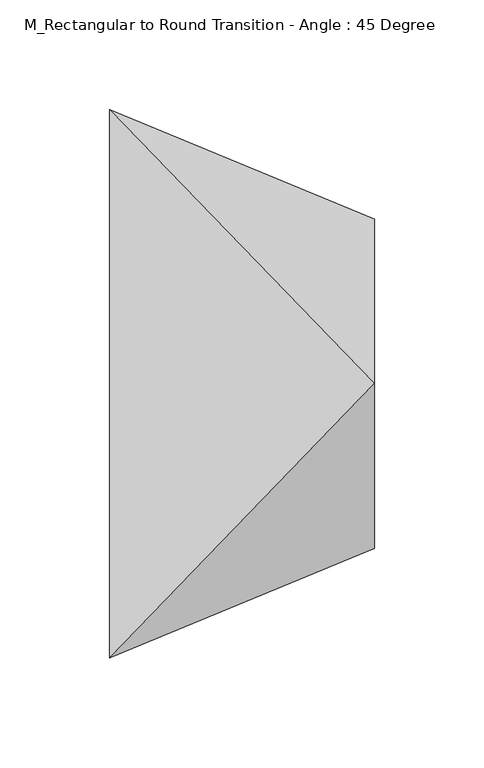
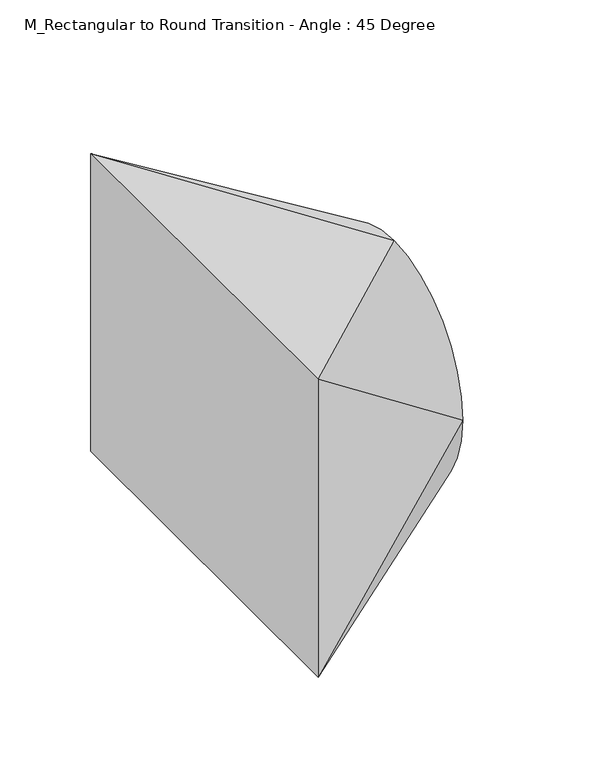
"""IFC4 building model written with IfcOpenShell, lengths in millimetres: duct fitting geometry, M_Rectangular to Round Transition - Angle : 45 Degree."""

from ifc_helpers import new_model, si_unit, frame, origin, place, context, project, spatial, circle_curve, source, transform, mapped, element, save
from ifc_brep_helpers import plane_surface, spline_surface, advanced_brep


def m_rectangular_to_round_transition_angle_45_degree_c3b12eae(model_context):
    return source(origin(), model_context, "Body", "AdvancedBrep", [
        advanced_brep(
        [(0.0, -125.0, -100.0), (0.0, -125.0, 100.0), (0.0, 125.0, 100.0), (0.0, 125.0, -100.0), (120.7106781, -75.0, 0.0), (120.7106781, 0.0, -75.0), (120.7106781, 75.0, 0.0), (120.7106781, 0.0, 75.0)],
        [
            (0, 1),
            (1, 2),
            (2, 3),
            (3, 0),
            (4, 5, circle_curve(frame((120.7106781, 0.0, 0.0), z_axis=(1.0, 0.0, 0.0), x_axis=(0.0, -1.0, 0.0)), 75.0)),
            (5, 6, circle_curve(frame((120.7106781, 0.0, 0.0), z_axis=(1.0, 0.0, 0.0), x_axis=(0.0, -1.0, 0.0)), 75.0)),
            (6, 7, circle_curve(frame((120.7106781, 0.0, 0.0), z_axis=(1.0, 0.0, 0.0), x_axis=(0.0, -1.0, 0.0)), 75.0)),
            (7, 4, circle_curve(frame((120.7106781, 0.0, 0.0), z_axis=(1.0, 0.0, 0.0), x_axis=(0.0, -1.0, 0.0)), 75.0)),
            (0, 4),
            (4, 1),
            (7, 1),
            (7, 2),
            (6, 2),
            (6, 3),
            (5, 3),
            (5, 0),
        ],
        [
            plane_surface(frame((0.0, 0.0, 0.0), z_axis=(-1.0, 0.0, 0.0), x_axis=(0.0, 1.0, 0.0))),
            plane_surface(frame((120.7106781, 0.0, 0.0), z_axis=(1.0, 0.0, 0.0), x_axis=(0.0, 1.0, 0.0))),
            plane_surface(frame((120.7106781, -75.0, 0.0), z_axis=(0.38268343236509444, -0.9238795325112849, 0.0), x_axis=(0.0, 0.0, 1.0))),
            spline_surface(2, 1, [[(120.7106781, -75.0, 0.0), (0.0, -125.0, 100.0)], [(120.7106781, -75.0, 75.0), (0.0, -125.0, 100.0)], [(120.7106781, 0.0, 75.0), (0.0, -125.0, 100.0)]], [3, 3], [2, 2], [0.0, 1.0], [0.0, 1.0], weights=[[1.0, 1.0], [0.7071067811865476, 0.7071067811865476], [1.0, 1.0]]),
            plane_surface(frame((120.7106781, 0.0, 75.0), z_axis=(0.20280301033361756, 0.0, 0.9792195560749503), x_axis=(0.0, 1.0, 0.0))),
            spline_surface(2, 1, [[(120.7106781, 0.0, 75.0), (0.0, 125.0, 100.0)], [(120.7106781, 75.0, 75.0), (0.0, 125.0, 100.0)], [(120.7106781, 75.0, 0.0), (0.0, 125.0, 100.0)]], [3, 3], [2, 2], [0.0, 1.0], [0.0, 1.0], weights=[[1.0, 1.0], [0.7071067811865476, 0.7071067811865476], [1.0, 1.0]]),
            plane_surface(frame((120.7106781, 75.0, 0.0), z_axis=(0.3826834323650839, 0.9238795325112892, 0.0), x_axis=(0.0, 0.0, -1.0))),
            spline_surface(2, 1, [[(120.7106781, 75.0, 0.0), (0.0, 125.0, -100.0)], [(120.7106781, 75.0, -75.0), (0.0, 125.0, -100.0)], [(120.7106781, 0.0, -75.0), (0.0, 125.0, -100.0)]], [3, 3], [2, 2], [0.0, 1.0], [0.0, 1.0], weights=[[1.0, 1.0], [0.7071067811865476, 0.7071067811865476], [1.0, 1.0]]),
            plane_surface(frame((120.7106781, 0.0, -75.0), z_axis=(0.20280301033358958, 0.0, -0.979219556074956), x_axis=(0.0, -1.0, 0.0))),
            spline_surface(2, 1, [[(120.7106781, 0.0, -75.0), (0.0, -125.0, -100.0)], [(120.7106781, -75.0, -75.0), (0.0, -125.0, -100.0)], [(120.7106781, -75.0, 0.0), (0.0, -125.0, -100.0)]], [3, 3], [2, 2], [0.0, 1.0], [0.0, 1.0], weights=[[1.0, 1.0], [0.7071067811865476, 0.7071067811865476], [1.0, 1.0]]),
        ],
        [
            (0, [[1, 2, 3, 4]]),
            (1, [[5, 6, 7, 8]]),
            (2, [[-1, 9, 10]]),
            (3, [[-8, 11, -10]]),
            (4, [[-2, -11, 12]]),
            (5, [[-7, 13, -12]]),
            (6, [[-3, -13, 14]]),
            (7, [[-6, 15, -14]]),
            (8, [[-4, -15, 16]]),
            (9, [[-5, -9, -16]]),
        ],
    ),
        advanced_brep(
        [(0.0, -125.0, -100.0), (0.0, -125.0, 100.0), (0.0, 125.0, 100.0), (0.0, 125.0, -100.0), (120.7106781, -75.0, 0.0), (120.7106781, 0.0, -75.0), (120.7106781, 75.0, 0.0), (120.7106781, 0.0, 75.0)],
        [
            (0, 1),
            (1, 2),
            (2, 3),
            (3, 0),
            (4, 5, circle_curve(frame((120.7106781, 0.0, 0.0), z_axis=(1.0, 0.0, 0.0), x_axis=(0.0, -1.0, 0.0)), 75.0)),
            (5, 6, circle_curve(frame((120.7106781, 0.0, 0.0), z_axis=(1.0, 0.0, 0.0), x_axis=(0.0, -1.0, 0.0)), 75.0)),
            (6, 7, circle_curve(frame((120.7106781, 0.0, 0.0), z_axis=(1.0, 0.0, 0.0), x_axis=(0.0, -1.0, 0.0)), 75.0)),
            (7, 4, circle_curve(frame((120.7106781, 0.0, 0.0), z_axis=(1.0, 0.0, 0.0), x_axis=(0.0, -1.0, 0.0)), 75.0)),
            (0, 4),
            (4, 1),
            (7, 1),
            (7, 2),
            (6, 2),
            (6, 3),
            (5, 3),
            (5, 0),
        ],
        [
            plane_surface(frame((0.0, 0.0, 0.0), z_axis=(-1.0, 0.0, 0.0), x_axis=(0.0, 1.0, 0.0))),
            plane_surface(frame((120.7106781, 0.0, 0.0), z_axis=(1.0, 0.0, 0.0), x_axis=(0.0, 1.0, 0.0))),
            plane_surface(frame((120.7106781, -75.0, 0.0), z_axis=(0.3826834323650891, -0.9238795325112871, 0.0), x_axis=(0.0, 0.0, 1.0))),
            spline_surface(2, 1, [[(120.7106781, -75.0, 0.0), (0.0, -125.0, 100.0)], [(120.7106781, -75.0, 75.0), (0.0, -125.0, 100.0)], [(120.7106781, 0.0, 75.0), (0.0, -125.0, 100.0)]], [3, 3], [2, 2], [0.0, 1.0], [0.0, 1.0], weights=[[1.0, 1.0], [0.7071067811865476, 0.7071067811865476], [1.0, 1.0]]),
            plane_surface(frame((120.7106781, 0.0, 75.0), z_axis=(0.20280301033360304, 0.0, 0.9792195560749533), x_axis=(0.0, 1.0, 0.0))),
            spline_surface(2, 1, [[(120.7106781, 0.0, 75.0), (0.0, 125.0, 100.0)], [(120.7106781, 75.0, 75.0), (0.0, 125.0, 100.0)], [(120.7106781, 75.0, 0.0), (0.0, 125.0, 100.0)]], [3, 3], [2, 2], [0.0, 1.0], [0.0, 1.0], weights=[[1.0, 1.0], [0.7071067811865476, 0.7071067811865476], [1.0, 1.0]]),
            plane_surface(frame((120.7106781, 75.0, 0.0), z_axis=(0.3826834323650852, 0.9238795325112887, 0.0), x_axis=(0.0, 0.0, -1.0))),
            spline_surface(2, 1, [[(120.7106781, 75.0, 0.0), (0.0, 125.0, -100.0)], [(120.7106781, 75.0, -75.0), (0.0, 125.0, -100.0)], [(120.7106781, 0.0, -75.0), (0.0, 125.0, -100.0)]], [3, 3], [2, 2], [0.0, 1.0], [0.0, 1.0], weights=[[1.0, 1.0], [0.7071067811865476, 0.7071067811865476], [1.0, 1.0]]),
            plane_surface(frame((120.7106781, 0.0, -75.0), z_axis=(0.20280301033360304, 0.0, -0.9792195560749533), x_axis=(0.0, -1.0, 0.0))),
            spline_surface(2, 1, [[(120.7106781, 0.0, -75.0), (0.0, -125.0, -100.0)], [(120.7106781, -75.0, -75.0), (0.0, -125.0, -100.0)], [(120.7106781, -75.0, 0.0), (0.0, -125.0, -100.0)]], [3, 3], [2, 2], [0.0, 1.0], [0.0, 1.0], weights=[[1.0, 1.0], [0.7071067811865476, 0.7071067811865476], [1.0, 1.0]]),
        ],
        [
            (0, [[1, 2, 3, 4]]),
            (1, [[5, 6, 7, 8]]),
            (2, [[-1, 9, 10]]),
            (3, [[-8, 11, -10]]),
            (4, [[-2, -11, 12]]),
            (5, [[-7, 13, -12]]),
            (6, [[-3, -13, 14]]),
            (7, [[-6, 15, -14]]),
            (8, [[-4, -15, 16]]),
            (9, [[-5, -9, -16]]),
        ],
    ),
        advanced_brep(
        [(120.7106781, 0.0, 75.0), (120.7106781, -75.0, 0.0), (120.7106781, 0.0, -75.0), (120.7106781, 75.0, 0.0), (0.0, -125.0, 100.0), (0.0, 125.0, 100.0), (0.0, 125.0, -100.0), (0.0, -125.0, -100.0)],
        [
            (0, 1, circle_curve(frame((120.7106781, 0.0, 0.0), z_axis=(1.0, 0.0, 0.0), x_axis=(0.0, 1.0, 0.0)), 75.0)),
            (1, 2, circle_curve(frame((120.7106781, 0.0, 0.0), z_axis=(1.0, 0.0, 0.0), x_axis=(0.0, 1.0, 0.0)), 75.0)),
            (2, 3, circle_curve(frame((120.7106781, 0.0, 0.0), z_axis=(1.0, 0.0, 0.0), x_axis=(0.0, 1.0, 0.0)), 75.0)),
            (3, 0, circle_curve(frame((120.7106781, 0.0, 0.0), z_axis=(1.0, 0.0, 0.0), x_axis=(0.0, 1.0, 0.0)), 75.0)),
            (4, 5),
            (5, 6),
            (6, 7),
            (7, 4),
            (0, 4),
            (4, 1),
            (7, 1),
            (7, 2),
            (6, 2),
            (6, 3),
            (5, 3),
            (5, 0),
        ],
        [
            plane_surface(frame((120.7106781, 0.0, 0.0), z_axis=(1.0, 0.0, 0.0), x_axis=(0.0, 0.0, -1.0))),
            plane_surface(frame((0.0, 0.0, 0.0), z_axis=(-1.0, 0.0, 0.0), x_axis=(0.0, 0.0, -1.0))),
            spline_surface(2, 1, [[(0.0, -125.0, 100.0), (120.7106781, 0.0, 75.0)], [(0.0, -125.0, 100.0), (120.7106781, -75.0, 75.0)], [(0.0, -125.0, 100.0), (120.7106781, -75.0, 0.0)]], [3, 3], [2, 2], [0.0, 1.0], [0.0, 1.0], weights=[[1.0, 1.0], [0.7071067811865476, 0.7071067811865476], [1.0, 1.0]]),
            plane_surface(frame((0.0, -125.0, 0.0), z_axis=(0.3826834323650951, -0.9238795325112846, 0.0), x_axis=(0.0, 0.0, -1.0))),
            spline_surface(2, 1, [[(0.0, -125.0, -100.0), (120.7106781, -75.0, 0.0)], [(0.0, -125.0, -100.0), (120.7106781, -75.0, -75.0)], [(0.0, -125.0, -100.0), (120.7106781, 0.0, -75.0)]], [3, 3], [2, 2], [0.0, 1.0], [0.0, 1.0], weights=[[1.0, 1.0], [0.7071067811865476, 0.7071067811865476], [1.0, 1.0]]),
            plane_surface(frame((0.0, 0.0, -100.0), z_axis=(0.2028030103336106, 0.0, -0.9792195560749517), x_axis=(0.0, 1.0, 0.0))),
            spline_surface(2, 1, [[(0.0, 125.0, -100.0), (120.7106781, 0.0, -75.0)], [(0.0, 125.0, -100.0), (120.7106781, 75.0, -75.0)], [(0.0, 125.0, -100.0), (120.7106781, 75.0, 0.0)]], [3, 3], [2, 2], [0.0, 1.0], [0.0, 1.0], weights=[[1.0, 1.0], [0.7071067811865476, 0.7071067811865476], [1.0, 1.0]]),
            plane_surface(frame((0.0, 125.0, 0.0), z_axis=(0.3826834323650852, 0.9238795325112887, 0.0), x_axis=(0.0, 0.0, 1.0))),
            spline_surface(2, 1, [[(0.0, 125.0, 100.0), (120.7106781, 75.0, 0.0)], [(0.0, 125.0, 100.0), (120.7106781, 75.0, 75.0)], [(0.0, 125.0, 100.0), (120.7106781, 0.0, 75.0)]], [3, 3], [2, 2], [0.0, 1.0], [0.0, 1.0], weights=[[1.0, 1.0], [0.7071067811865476, 0.7071067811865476], [1.0, 1.0]]),
            plane_surface(frame((0.0, 0.0, 100.0), z_axis=(0.20280301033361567, 0.0, 0.9792195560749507), x_axis=(0.0, -1.0, 0.0))),
        ],
        [
            (0, [[1, 2, 3, 4]]),
            (1, [[5, 6, 7, 8]]),
            (2, [[-1, 9, 10]]),
            (3, [[-8, 11, -10]]),
            (4, [[-2, -11, 12]]),
            (5, [[-7, 13, -12]]),
            (6, [[-3, -13, 14]]),
            (7, [[-6, 15, -14]]),
            (8, [[-4, -15, 16]]),
            (9, [[-5, -9, -16]]),
        ],
    ),
    ])


if __name__ == "__main__":
    model = new_model("IFC4")
    model_context = context("Model", 3, world=origin())
    ifc_project = project(units=[si_unit("LENGTHUNIT", "METRE", prefix="MILLI")], contexts=[model_context])
    site = spatial("IfcSite", under=ifc_project)
    building = spatial("IfcBuilding", under=site)
    placement = place(None, origin())
    m_rectangular_to_round_transition_angle_45_degree_shape = m_rectangular_to_round_transition_angle_45_degree_c3b12eae(model_context)
    element("IfcDuctFitting", 1, ObjectType="M_Rectangular to Round Transition - Angle : 45 Degree", at=placement, inside=building, context=model_context, shape_type="MappedRepresentation", body=[
        mapped(m_rectangular_to_round_transition_angle_45_degree_shape, transform((0.0, 0.0, 0.0), x_axis=(1.0, 0.0, 0.0), y_axis=(0.0, 1.0, 0.0), z_axis=(0.0, 0.0, 1.0))),
    ])
    save(model, "model.ifc")
